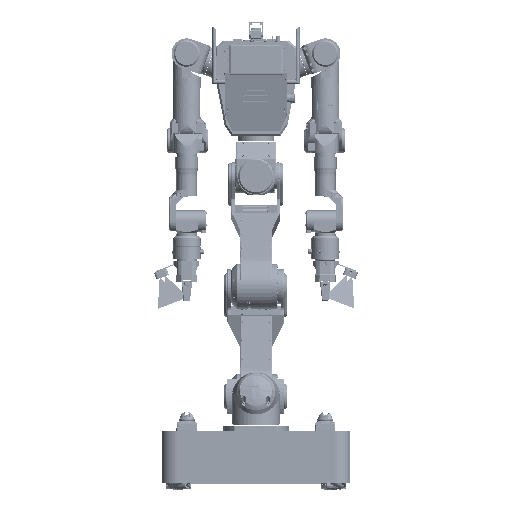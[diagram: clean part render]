
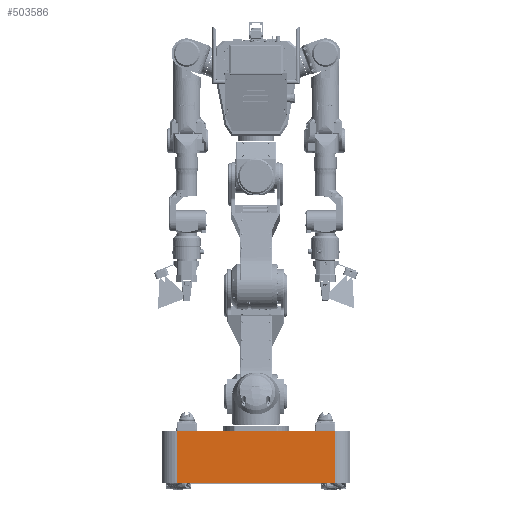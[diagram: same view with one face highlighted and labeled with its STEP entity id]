
A CAD part, left-side view. The second image highlights one B-rep face of the part: STEP entity #503586.
In plain terms, the highlighted planar face has unit normal (-1, 0, 0).
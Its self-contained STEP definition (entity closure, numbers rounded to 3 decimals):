
#23809=PLANE('',#541798);
#66188=FACE_OUTER_BOUND('',#96965,.T.);
#96965=EDGE_LOOP('',(#355392,#355393,#355394,#355395));
#129036=LINE('',#790224,#162858);
#129058=LINE('',#790307,#162880);
#129063=LINE('',#790321,#162885);
#129064=LINE('',#790322,#162886);
#162858=VECTOR('',#606363,1000.);
#162880=VECTOR('',#606431,1000.);
#162885=VECTOR('',#606444,1000.);
#162886=VECTOR('',#606445,1000.);
#227271=VERTEX_POINT('',#790221);
#227272=VERTEX_POINT('',#790223);
#227309=VERTEX_POINT('',#790304);
#227310=VERTEX_POINT('',#790306);
#277551=EDGE_CURVE('',#227271,#227272,#129036,.T.);
#277594=EDGE_CURVE('',#227310,#227309,#129058,.T.);
#277602=EDGE_CURVE('',#227309,#227272,#129063,.T.);
#277603=EDGE_CURVE('',#227271,#227310,#129064,.T.);
#355392=ORIENTED_EDGE('',*,*,#277594,.T.);
#355393=ORIENTED_EDGE('',*,*,#277602,.T.);
#355394=ORIENTED_EDGE('',*,*,#277551,.F.);
#355395=ORIENTED_EDGE('',*,*,#277603,.T.);
#503586=ADVANCED_FACE('',(#66188),#23809,.F.);
#541798=AXIS2_PLACEMENT_3D('',#790320,#606442,#606443);
#606363=DIRECTION('',(0.,-1.,0.));
#606431=DIRECTION('',(0.,-1.,0.));
#606442=DIRECTION('center_axis',(1.,0.,0.));
#606443=DIRECTION('ref_axis',(0.,0.,
1.));
#606444=DIRECTION('',(0.,0.,1.));
#606445=DIRECTION('',(0.,0.,-1.));
#790221=CARTESIAN_POINT('',(-349.5,250.,185.6));
#790223=CARTESIAN_POINT('',(-349.5,-250.,185.6));
#790224=CARTESIAN_POINT('',(-349.5,300.,185.6));
#790304=CARTESIAN_POINT('',(-349.5,-250.,20.6));
#790306=CARTESIAN_POINT('',(-349.5,250.,20.6));
#790307=CARTESIAN_POINT('',(-349.5,300.,20.6));
#790320=CARTESIAN_POINT('Origin',(-349.5,300.,185.6));
#790321=CARTESIAN_POINT('',(-349.5,-250.,185.6));
#790322=CARTESIAN_POINT('',(-349.5,250.,185.6));
